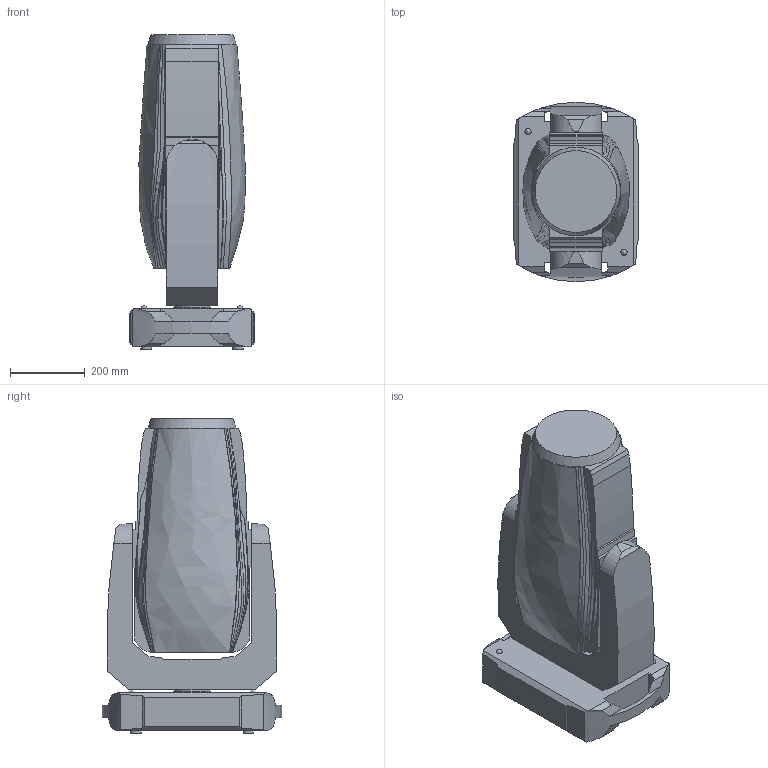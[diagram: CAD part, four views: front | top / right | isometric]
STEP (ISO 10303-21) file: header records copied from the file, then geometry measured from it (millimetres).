
FILE_DESCRIPTION(/* description */ ('Unknown'),/* implementation_level */ '2;1');
FILE_NAME(/* name */ '3D-iForte Wash XF',/* time_stamp */ '2024-07-04T13:41:36+02:00',/* author */ ('Unknown'),/* organization */ ('Unknown'),/* preprocessor_version */ 'ST-DEVELOPER v19.4',/* originating_system */ 'Solid Edge',/* authorisation */ 'Unknown');
FILE_SCHEMA (('AUTOMOTIVE_DESIGN {1 0 10303 214 3 1 1}'));
Length unit declared in the file: millimetre
Products named in the file (4): 3D-iForte Wash XF; iForte-Base; iForte-Arm; iForte-Head Wash XF
Assembly tree (3 placements, depth 2):
  3D-iForte Wash XF
    iForte-Base
    iForte-Arm
    iForte-Head Wash XF
Bounding box: 335.42 x 478.88 x 838.79 mm (x, y, z)
Volume: 65873435.4 mm3; surface area: 1677529.7 mm2
Topology: 3 solids, 3 shells, 160 faces, 450 edges, 301 vertices
Faces by surface type: plane 78, bspline 51, cylinder 28, torus 2, cone 1
Full cylindrical faces by diameter (mm): 27.261 x2, 29.966 x2, 50 x3, 95.486 x1, 97.471 x1
Entity records: 7164 total; most frequent: CARTESIAN_POINT 3397, ORIENTED_EDGE 856, DIRECTION 579, EDGE_CURVE 428, VERTEX_POINT 293, LINE 205, VECTOR 205, AXIS2_PLACEMENT_3D 187
